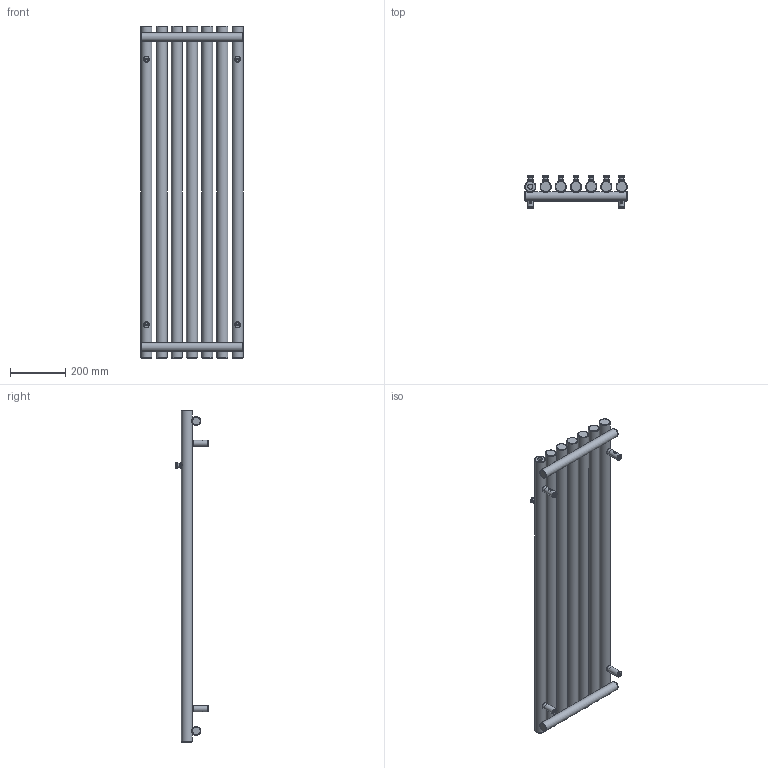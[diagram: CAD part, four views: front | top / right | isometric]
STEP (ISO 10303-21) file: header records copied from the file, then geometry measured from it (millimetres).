
FILE_DESCRIPTION(/* description */ (''),/* implementation_level */ '2;1');
FILE_NAME(/* name */ 'Z:\R\G\P\RGP116 - Grzejniki Geyser\Work\Inventor\Circolo (Rolo V, Rolo H)\ROLO-HANGER\Marketing\Bryły\Zaokrąglone\WGROW120037-SX-CK-(Z).stp',/* time_stamp */ '2024-03-26T15:32:19+01:00',/* author */ ('NowAd'),/* organization */ (''),/* preprocessor_version */ 'ST-DEVELOPER v17.2',/* originating_system */ 'Autodesk Inventor 2019',/* authorisation */ '');
FILE_SCHEMA (('AUTOMOTIVE_DESIGN { 1 0 10303 214 3 1 1 }'));
Length unit declared in the file: millimetre
Products named in the file (3): WGROR120037-SX-CK-(Z); PGROR120037-SX-CK-(K); CK-V-fi40 marketing
Assembly tree (5 placements, depth 2):
  WGROR120037-SX-CK-(Z)
    PGROR120037-SX-CK-(K)
    CK-V-fi40 marketing  x4
Bounding box: 370 x 116.5 x 1200 mm (x, y, z)
Volume: 11222731.2 mm3; surface area: 1183681.2 mm2
Topology: 5 solids, 5 shells, 417 faces, 1058 edges, 719 vertices
Faces by surface type: plane 158, cylinder 97, torus 81, cone 60, bspline 21
Full cylindrical faces by diameter (mm): 4.134 x4, 4.48 x4, 6.4 x4, 10 x4, 12 x4, 14 x7, 15.834 x4, 16 x4, 18.631 x3, 20 x14, 22 x4, 32 x2, 40 x7
Entity records: 11202 total; most frequent: CARTESIAN_POINT 5303, DIRECTION 1297, ORIENTED_EDGE 1168, AXIS2_PLACEMENT_3D 596, EDGE_CURVE 584, VERTEX_POINT 408, CIRCLE 367, EDGE_LOOP 302
